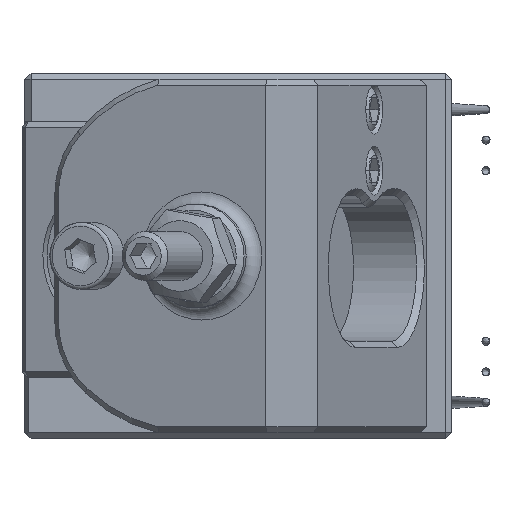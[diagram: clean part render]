
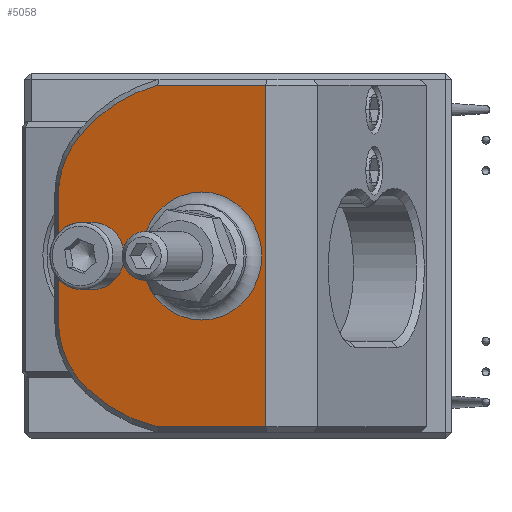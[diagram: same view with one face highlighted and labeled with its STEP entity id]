
A CAD part, left-side view. The second image highlights one B-rep face of the part: STEP entity #5058.
In plain terms, the highlighted planar face has unit normal (-0.94, 0.342, 0).
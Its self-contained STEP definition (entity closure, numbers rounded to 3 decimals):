
#651=LINE('',#8464,#1086);
#671=LINE('',#8503,#1106);
#672=LINE('',#8509,#1107);
#673=LINE('',#8514,#1108);
#1086=VECTOR('',#6783,10.);
#1106=VECTOR('',#6815,10.);
#1107=VECTOR('',#6820,10.);
#1108=VECTOR('',#6825,10.);
#1292=FACE_BOUND('',#1845,.T.);
#1293=FACE_BOUND('',#1846,.T.);
#1523=FACE_OUTER_BOUND('',#1844,.T.);
#1844=EDGE_LOOP('',(#4270,#4271,#4272,#4273,#4274,#4275,#4276,#4277));
#1845=EDGE_LOOP('',(#4278));
#1846=EDGE_LOOP('',(#4279));
#2042=CIRCLE('',#5512,2.75);
#2098=CIRCLE('',#5614,5.25);
#2101=CIRCLE('',#5623,13.5);
#2102=CIRCLE('',#5624,7.5);
#2103=CIRCLE('',#5625,7.5);
#2104=CIRCLE('',#5626,13.5);
#2357=VERTEX_POINT('',#7991);
#2460=VERTEX_POINT('',#8455);
#2461=VERTEX_POINT('',#8460);
#2463=VERTEX_POINT('',#8463);
#2476=VERTEX_POINT('',#8502);
#2477=VERTEX_POINT('',#8504);
#2478=VERTEX_POINT('',#8506);
#2479=VERTEX_POINT('',#8508);
#2480=VERTEX_POINT('',#8510);
#2481=VERTEX_POINT('',#8512);
#2932=EDGE_CURVE('',#2357,#2357,#2042,.T.);
#3075=EDGE_CURVE('',#2460,#2460,#2098,.T.);
#3078=EDGE_CURVE('',#2461,#2463,#651,.T.);
#3099=EDGE_CURVE('',#2476,#2461,#671,.T.);
#3100=EDGE_CURVE('',#2477,#2476,#2101,.T.);
#3101=EDGE_CURVE('',#2478,#2477,#2102,.T.);
#3102=EDGE_CURVE('',#2479,#2478,#672,.T.);
#3103=EDGE_CURVE('',#2480,#2479,#2103,.T.);
#3104=EDGE_CURVE('',#2481,#2480,#2104,.T.);
#3105=EDGE_CURVE('',#2463,#2481,#673,.T.);
#4270=ORIENTED_EDGE('',*,*,#3099,.F.);
#4271=ORIENTED_EDGE('',*,*,#3100,.F.);
#4272=ORIENTED_EDGE('',*,*,#3101,.F.);
#4273=ORIENTED_EDGE('',*,*,#3102,.F.);
#4274=ORIENTED_EDGE('',*,*,#3103,.F.);
#4275=ORIENTED_EDGE('',*,*,#3104,.F.);
#4276=ORIENTED_EDGE('',*,*,#3105,.F.);
#4277=ORIENTED_EDGE('',*,*,#3078,.F.);
#4278=ORIENTED_EDGE('',*,*,#2932,.T.);
#4279=ORIENTED_EDGE('',*,*,#3075,.F.);
#4789=PLANE('',#5622);
#5058=ADVANCED_FACE('',(#1523,#1292,#1293),#4789,.T.);
#5512=AXIS2_PLACEMENT_3D('',#7992,#6504,#6505);
#5614=AXIS2_PLACEMENT_3D('',#8457,#6776,#6777);
#5622=AXIS2_PLACEMENT_3D('',#8501,#6813,#6814);
#5623=AXIS2_PLACEMENT_3D('',#8505,#6816,#6817);
#5624=AXIS2_PLACEMENT_3D('',#8507,#6818,#6819);
#5625=AXIS2_PLACEMENT_3D('',#8511,#6821,#6822);
#5626=AXIS2_PLACEMENT_3D('',#8513,#6823,#6824);
#6504=DIRECTION('center_axis',(0.94,-0.342,0.));
#6505=DIRECTION('ref_axis',(0.337,0.927,-0.164));
#6776=DIRECTION('center_axis',(-0.94,0.342,0.));
#6777=DIRECTION('ref_axis',(0.342,0.94,0.));
#6783=DIRECTION('',(0.,0.,-1.));
#6813=DIRECTION('center_axis',(-0.94,0.342,0.));
#6814=DIRECTION('ref_axis',(0.,0.,-1.));
#6815=DIRECTION('',(-0.342,-0.94,0.));
#6816=DIRECTION('center_axis',(0.94,-0.342,0.));
#6817=DIRECTION('ref_axis',(0.255,0.702,0.665));
#6818=DIRECTION('center_axis',(0.94,-0.342,0.));
#6819=DIRECTION('ref_axis',(0.342,0.94,0.));
#6820=DIRECTION('',(0.,0.,1.));
#6821=DIRECTION('center_axis',(0.94,-0.342,0.));
#6822=DIRECTION('ref_axis',(0.228,0.626,-0.745));
#6823=DIRECTION('center_axis',(0.94,-0.342,0.));
#6824=DIRECTION('ref_axis',(0.071,0.195,-0.978));
#6825=DIRECTION('',(0.342,0.94,0.));
#7991=CARTESIAN_POINT('',(-56.242,5.945,0.451));
#7992=CARTESIAN_POINT('Origin',(-55.314,8.494,0.));
#8455=CARTESIAN_POINT('',(-58.563,-0.433,-5.25));
#8457=CARTESIAN_POINT('Origin',(-58.563,-0.433,0.));
#8460=CARTESIAN_POINT('',(-60.479,-5.696,14.));
#8463=CARTESIAN_POINT('',(-60.479,-5.696,-14.));
#8464=CARTESIAN_POINT('',(-60.479,-5.696,-14.5));
#8501=CARTESIAN_POINT('Origin',(-61.847,-9.454,-14.5));
#8502=CARTESIAN_POINT('',(-57.251,3.173,14.));
#8503=CARTESIAN_POINT('',(-60.182,-4.88,14.));
#8504=CARTESIAN_POINT('',(-54.938,9.528,9.892));
#8505=CARTESIAN_POINT('Origin',(-58.386,0.054,0.914));
#8506=CARTESIAN_POINT('',(-54.288,11.313,4.905));
#8507=CARTESIAN_POINT('Origin',(-56.853,4.265,4.905));
#8508=CARTESIAN_POINT('',(-54.288,11.313,-5.276));
#8509=CARTESIAN_POINT('',(-54.288,11.313,-9.888));
#8510=CARTESIAN_POINT('',(-55.143,8.964,-10.866));
#8511=CARTESIAN_POINT('Origin',(-56.853,4.265,-5.276));
#8512=CARTESIAN_POINT('',(-57.248,3.182,-14.));
#8513=CARTESIAN_POINT('Origin',(-58.221,0.506,-0.804));
#8514=CARTESIAN_POINT('',(-60.182,-4.88,-14.));
